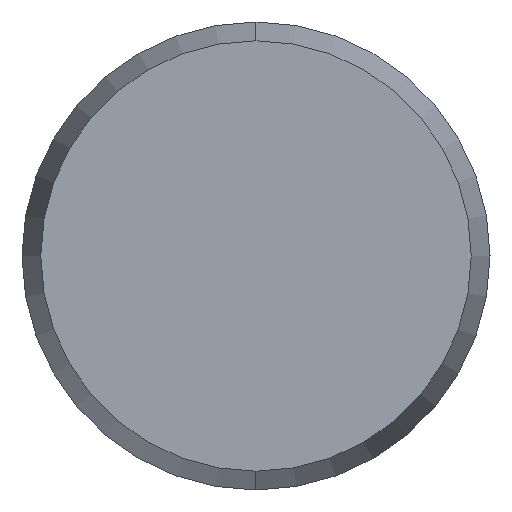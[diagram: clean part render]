
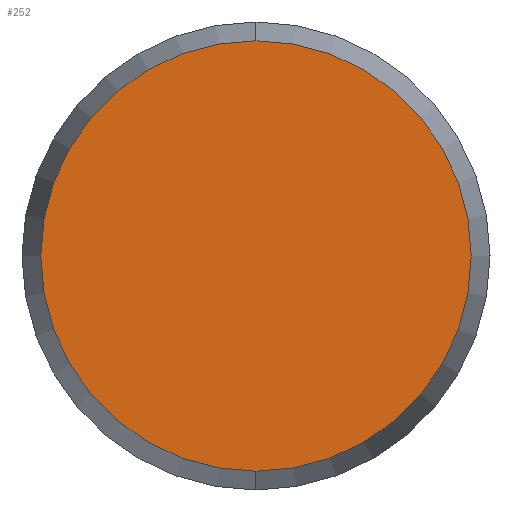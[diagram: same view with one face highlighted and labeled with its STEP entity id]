
A CAD part, left-side view. The second image highlights one B-rep face of the part: STEP entity #252.
In plain terms, the highlighted planar face has unit normal (-1, 0, 0).
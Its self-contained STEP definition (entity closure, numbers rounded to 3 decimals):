
#94 = CIRCLE ( 'NONE', #98, 3.678 ) ;
#95 = DIRECTION ( 'NONE',  ( 0., 0., -1. ) ) ;
#96 = DIRECTION ( 'NONE',  ( 1., 0., 0. ) ) ;
#97 = CARTESIAN_POINT ( 'NONE',  ( -40., 0., 0. ) ) ;
#98 = AXIS2_PLACEMENT_3D ( 'NONE', #97, #96, #95 ) ;
#122 = EDGE_CURVE ( 'NONE', #234, #230, #94, .T. ) ;
#135 = CARTESIAN_POINT ( 'NONE',  ( -40., 0., -3.678 ) ) ;
#140 = DIRECTION ( 'NONE',  ( 0., 0., -1. ) ) ;
#141 = DIRECTION ( 'NONE',  ( 1., 0., 0. ) ) ;
#142 = CARTESIAN_POINT ( 'NONE',  ( -40., 0., 0. ) ) ;
#143 = AXIS2_PLACEMENT_3D ( 'NONE', #142, #141, #140 ) ;
#145 = PLANE ( 'NONE',  #143 ) ;
#151 = FACE_OUTER_BOUND ( 'NONE', #253, .T. ) ;
#164 = CARTESIAN_POINT ( 'NONE',  ( -40., 0., 3.678 ) ) ;
#201 = DIRECTION ( 'NONE',  ( 0., 0., -1. ) ) ;
#202 = DIRECTION ( 'NONE',  ( 1., 0., 0. ) ) ;
#203 = CARTESIAN_POINT ( 'NONE',  ( -40., 0., 0. ) ) ;
#204 = AXIS2_PLACEMENT_3D ( 'NONE', #203, #202, #201 ) ;
#208 = CIRCLE ( 'NONE', #204, 3.678 ) ;
#230 = VERTEX_POINT ( 'NONE', #135 ) ;
#234 = VERTEX_POINT ( 'NONE', #164 ) ;
#252 = ADVANCED_FACE ( 'NONE', ( #151 ), #145, .F. ) ;
#253 = EDGE_LOOP ( 'NONE', ( #270, #271 ) ) ;
#263 = EDGE_CURVE ( 'NONE', #230, #234, #208, .T. ) ;
#270 = ORIENTED_EDGE ( 'NONE', *, *, #122, .F. ) ;
#271 = ORIENTED_EDGE ( 'NONE', *, *, #263, .F. ) ;
